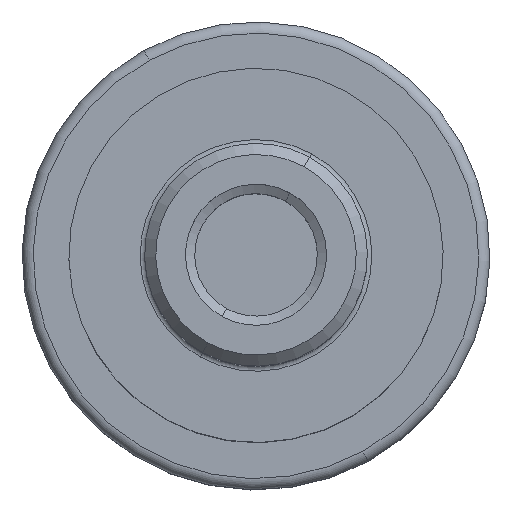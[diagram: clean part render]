
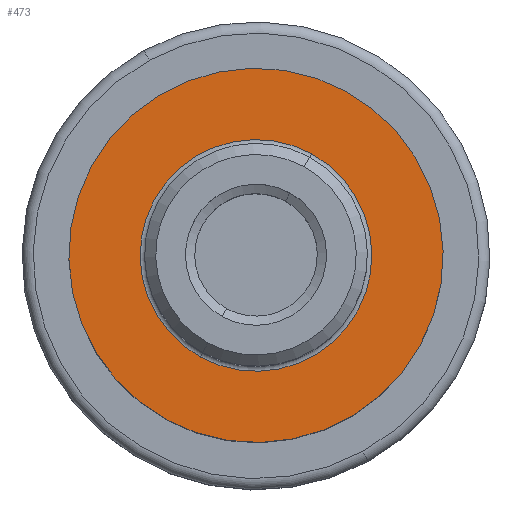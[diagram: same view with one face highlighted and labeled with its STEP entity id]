
A CAD part, top view. The second image highlights one B-rep face of the part: STEP entity #473.
In plain terms, the highlighted planar face has unit normal (0, 0, 1).
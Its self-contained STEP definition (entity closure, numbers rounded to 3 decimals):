
#410=AXIS2_PLACEMENT_3D('Circle Axis2P3D',#408,#409,$) ;
#436=AXIS2_PLACEMENT_3D('Circle Axis2P3D',#434,#435,$) ;
#449=AXIS2_PLACEMENT_3D('Plane Axis2P3D',#446,#447,#448) ;
#453=AXIS2_PLACEMENT_3D('Circle Axis2P3D',#451,#452,$) ;
#462=AXIS2_PLACEMENT_3D('Circle Axis2P3D',#460,#461,$) ;
#408=CARTESIAN_POINT('Axis2P3D Location',(0.,0.,-50.)) ;
#412=CARTESIAN_POINT('Vertex',(-7.479,-13.69,-50.)) ;
#414=CARTESIAN_POINT('Vertex',(7.479,13.69,-50.)) ;
#434=CARTESIAN_POINT('Axis2P3D Location',(0.,0.,-50.)) ;
#446=CARTESIAN_POINT('Axis2P3D Location',(0.,25.2,-50.)) ;
#451=CARTESIAN_POINT('Axis2P3D Location',(0.,0.,-50.)) ;
#455=CARTESIAN_POINT('Vertex',(12.082,22.115,-50.)) ;
#457=CARTESIAN_POINT('Vertex',(-12.082,-22.115,-50.)) ;
#460=CARTESIAN_POINT('Axis2P3D Location',(0.,0.,-50.)) ;
#409=DIRECTION('Axis2P3D Direction',(0.,0.,-1.)) ;
#435=DIRECTION('Axis2P3D Direction',(0.,0.,-1.)) ;
#447=DIRECTION('Axis2P3D Direction',(0.,0.,-1.)) ;
#448=DIRECTION('Axis2P3D XDirection',(1.,0.,0.)) ;
#452=DIRECTION('Axis2P3D Direction',(0.,0.,-1.)) ;
#461=DIRECTION('Axis2P3D Direction',(0.,0.,-1.)) ;
#466=ORIENTED_EDGE('',*,*,#459,.T.) ;
#467=ORIENTED_EDGE('',*,*,#464,.T.) ;
#470=ORIENTED_EDGE('',*,*,#438,.T.) ;
#471=ORIENTED_EDGE('',*,*,#416,.T.) ;
#472=FACE_BOUND('',#469,.T.) ;
#473=ADVANCED_FACE('NOCUT',(#468,#472),#450,.F.) ;
#411=CIRCLE('generated circle',#410,15.6) ;
#437=CIRCLE('generated circle',#436,15.6) ;
#454=CIRCLE('generated circle',#453,25.2) ;
#463=CIRCLE('generated circle',#462,25.2) ;
#416=EDGE_CURVE('',#413,#415,#411,.T.) ;
#438=EDGE_CURVE('',#415,#413,#437,.T.) ;
#459=EDGE_CURVE('',#456,#458,#454,.F.) ;
#464=EDGE_CURVE('',#458,#456,#463,.F.) ;
#465=EDGE_LOOP('',(#466,#467)) ;
#469=EDGE_LOOP('',(#470,#471)) ;
#468=FACE_OUTER_BOUND('',#465,.T.) ;
#450=PLANE('',#449) ;
#413=VERTEX_POINT('',#412) ;
#415=VERTEX_POINT('',#414) ;
#456=VERTEX_POINT('',#455) ;
#458=VERTEX_POINT('',#457) ;
